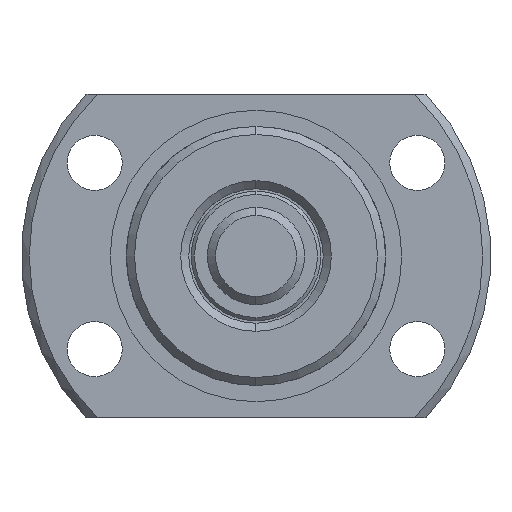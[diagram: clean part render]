
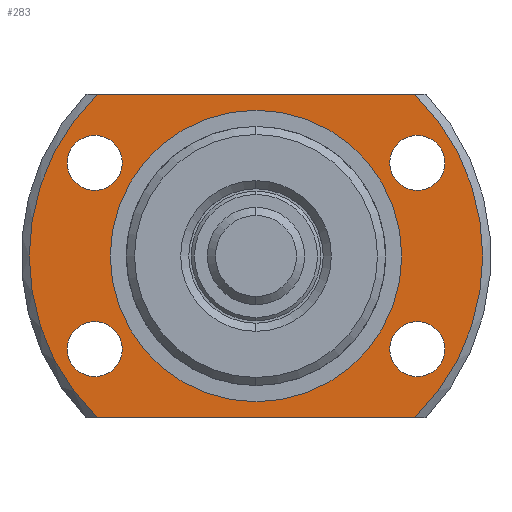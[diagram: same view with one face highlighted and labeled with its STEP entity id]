
A CAD part, left-side view. The second image highlights one B-rep face of the part: STEP entity #283.
In plain terms, the highlighted planar face has unit normal (-1, 0, 0).
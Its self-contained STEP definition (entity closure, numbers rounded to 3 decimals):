
#32 = DIRECTION ( 'NONE',  ( 0., 0., -1. ) ) ;
#33 = DIRECTION ( 'NONE',  ( 1., 0., 0. ) ) ;
#44 = CARTESIAN_POINT ( 'NONE',  ( -5., 0., 0. ) ) ;
#135 = DIRECTION ( 'NONE',  ( 0., 0., 1. ) ) ;
#136 = DIRECTION ( 'NONE',  ( -1., 0., 0. ) ) ;
#138 = CARTESIAN_POINT ( 'NONE',  ( -5., -9.959, -5.75 ) ) ;
#139 = DIRECTION ( 'NONE',  ( 0., 0., 1. ) ) ;
#140 = DIRECTION ( 'NONE',  ( -1., 0., 0. ) ) ;
#141 = CARTESIAN_POINT ( 'NONE',  ( -5., 9.959, -5.75 ) ) ;
#142 = DIRECTION ( 'NONE',  ( 0., 1., 0. ) ) ;
#143 = DIRECTION ( 'NONE',  ( 0., 0., 1. ) ) ;
#144 = DIRECTION ( 'NONE',  ( -1., 0., 0. ) ) ;
#146 = CARTESIAN_POINT ( 'NONE',  ( -5., 9.959, 5.75 ) ) ;
#147 = CARTESIAN_POINT ( 'NONE',  ( -5., 14., 10. ) ) ;
#149 = DIRECTION ( 'NONE',  ( 0., 0., -1. ) ) ;
#150 = DIRECTION ( 'NONE',  ( 1., 0., 0. ) ) ;
#151 = CARTESIAN_POINT ( 'NONE',  ( -5., 0., 0. ) ) ;
#152 = DIRECTION ( 'NONE',  ( 0., -1., 0. ) ) ;
#153 = CARTESIAN_POINT ( 'NONE',  ( -5., 14., -10. ) ) ;
#154 = DIRECTION ( 'NONE',  ( 0., 0., 1. ) ) ;
#155 = DIRECTION ( 'NONE',  ( -1., 0., 0. ) ) ;
#156 = CARTESIAN_POINT ( 'NONE',  ( -5., -9.959, 5.75 ) ) ;
#165 = DIRECTION ( 'NONE',  ( 0., 0., -1. ) ) ;
#166 = DIRECTION ( 'NONE',  ( 1., 0., 0. ) ) ;
#167 = CARTESIAN_POINT ( 'NONE',  ( -5., 0., 0. ) ) ;
#283 = ADVANCED_FACE ( 'NONE', ( #1998, #1999, #2011, #2009, #1996, #2000 ), #3591, .T. ) ;
#608 = AXIS2_PLACEMENT_3D ( 'NONE', #3593, #3589, #3594 ) ;
#686 = CARTESIAN_POINT ( 'NONE',  ( -5., -9.959, -4.05 ) ) ;
#687 = CARTESIAN_POINT ( 'NONE',  ( -5., -9.959, 4.05 ) ) ;
#689 = CARTESIAN_POINT ( 'NONE',  ( -5., -9.959, 7.45 ) ) ;
#698 = CARTESIAN_POINT ( 'NONE',  ( -5., 9.959, 4.05 ) ) ;
#702 = CARTESIAN_POINT ( 'NONE',  ( -5., 9.959, 7.45 ) ) ;
#706 = CARTESIAN_POINT ( 'NONE',  ( -5., 9.959, -7.45 ) ) ;
#713 = CARTESIAN_POINT ( 'NONE',  ( -5., 9.959, -4.05 ) ) ;
#716 = CARTESIAN_POINT ( 'NONE',  ( -5., -9.959, -7.45 ) ) ;
#719 = CARTESIAN_POINT ( 'NONE',  ( -5., 0., 9. ) ) ;
#721 = CARTESIAN_POINT ( 'NONE',  ( -5., 0., -9. ) ) ;
#882 = CIRCLE ( 'NONE', #1156, 1.7 ) ;
#883 = VECTOR ( 'NONE', #142, 1000. ) ;
#884 = CIRCLE ( 'NONE', #1155, 1.7 ) ;
#885 = VECTOR ( 'NONE', #152, 1000. ) ;
#887 = LINE ( 'NONE', #153, #885 ) ;
#888 = LINE ( 'NONE', #147, #883 ) ;
#889 = CIRCLE ( 'NONE', #1154, 1.7 ) ;
#890 = CIRCLE ( 'NONE', #1152, 1.7 ) ;
#891 = CIRCLE ( 'NONE', #1153, 9. ) ;
#893 = CIRCLE ( 'NONE', #1150, 14. ) ;
#896 = CIRCLE ( 'NONE', #1151, 14. ) ;
#1112 = AXIS2_PLACEMENT_3D ( 'NONE', #2714, #2713, #2711 ) ;
#1114 = AXIS2_PLACEMENT_3D ( 'NONE', #2699, #2698, #2697 ) ;
#1116 = AXIS2_PLACEMENT_3D ( 'NONE', #2682, #2681, #2679 ) ;
#1118 = AXIS2_PLACEMENT_3D ( 'NONE', #3078, #3084, #2687 ) ;
#1120 = AXIS2_PLACEMENT_3D ( 'NONE', #2225, #2221, #2220 ) ;
#1150 = AXIS2_PLACEMENT_3D ( 'NONE', #44, #33, #32 ) ;
#1151 = AXIS2_PLACEMENT_3D ( 'NONE', #167, #166, #165 ) ;
#1152 = AXIS2_PLACEMENT_3D ( 'NONE', #156, #155, #154 ) ;
#1153 = AXIS2_PLACEMENT_3D ( 'NONE', #151, #150, #149 ) ;
#1154 = AXIS2_PLACEMENT_3D ( 'NONE', #146, #144, #143 ) ;
#1155 = AXIS2_PLACEMENT_3D ( 'NONE', #141, #140, #139 ) ;
#1156 = AXIS2_PLACEMENT_3D ( 'NONE', #138, #136, #135 ) ;
#1261 = CARTESIAN_POINT ( 'NONE',  ( -5., -9.798, -10. ) ) ;
#1265 = CARTESIAN_POINT ( 'NONE',  ( -5., 9.798, -10. ) ) ;
#1270 = CARTESIAN_POINT ( 'NONE',  ( -5., 9.798, 10. ) ) ;
#1271 = CARTESIAN_POINT ( 'NONE',  ( -5., -9.798, 10. ) ) ;
#1443 = ORIENTED_EDGE ( 'NONE', *, *, #3650, .F. ) ;
#1444 = ORIENTED_EDGE ( 'NONE', *, *, #3739, .F. ) ;
#1446 = ORIENTED_EDGE ( 'NONE', *, *, #3741, .F. ) ;
#1447 = ORIENTED_EDGE ( 'NONE', *, *, #3742, .T. ) ;
#1448 = ORIENTED_EDGE ( 'NONE', *, *, #3734, .F. ) ;
#1449 = ORIENTED_EDGE ( 'NONE', *, *, #3743, .T. ) ;
#1450 = ORIENTED_EDGE ( 'NONE', *, *, #3736, .F. ) ;
#1451 = ORIENTED_EDGE ( 'NONE', *, *, #3658, .F. ) ;
#1525 = CIRCLE ( 'NONE', #1112, 1.7 ) ;
#1852 = CIRCLE ( 'NONE', #1116, 1.7 ) ;
#1996 = FACE_BOUND ( 'NONE', #3776, .T. ) ;
#1998 = FACE_BOUND ( 'NONE', #3772, .T. ) ;
#1999 = FACE_BOUND ( 'NONE', #3789, .T. ) ;
#2000 = FACE_BOUND ( 'NONE', #3780, .T. ) ;
#2009 = FACE_OUTER_BOUND ( 'NONE', #3778, .T. ) ;
#2011 = FACE_BOUND ( 'NONE', #3775, .T. ) ;
#2220 = DIRECTION ( 'NONE',  ( 0., 0., -1. ) ) ;
#2221 = DIRECTION ( 'NONE',  ( 1., 0., 0. ) ) ;
#2225 = CARTESIAN_POINT ( 'NONE',  ( -5., 0., 0. ) ) ;
#2277 = CIRCLE ( 'NONE', #1120, 9. ) ;
#2278 = CIRCLE ( 'NONE', #1118, 1.7 ) ;
#2679 = DIRECTION ( 'NONE',  ( 0., 0., 1. ) ) ;
#2681 = DIRECTION ( 'NONE',  ( -1., 0., 0. ) ) ;
#2682 = CARTESIAN_POINT ( 'NONE',  ( -5., 9.959, 5.75 ) ) ;
#2687 = DIRECTION ( 'NONE',  ( 0., 0., 1. ) ) ;
#2697 = DIRECTION ( 'NONE',  ( 0., 0., 1. ) ) ;
#2698 = DIRECTION ( 'NONE',  ( -1., 0., 0. ) ) ;
#2699 = CARTESIAN_POINT ( 'NONE',  ( -5., -9.959, 5.75 ) ) ;
#2711 = DIRECTION ( 'NONE',  ( 0., 0., 1. ) ) ;
#2713 = DIRECTION ( 'NONE',  ( -1., 0., 0. ) ) ;
#2714 = CARTESIAN_POINT ( 'NONE',  ( -5., -9.959, -5.75 ) ) ;
#3078 = CARTESIAN_POINT ( 'NONE',  ( -5., 9.959, -5.75 ) ) ;
#3084 = DIRECTION ( 'NONE',  ( -1., 0., 0. ) ) ;
#3582 = CIRCLE ( 'NONE', #1114, 1.7 ) ;
#3589 = DIRECTION ( 'NONE',  ( -1., 0., 0. ) ) ;
#3591 = PLANE ( 'NONE',  #608 ) ;
#3593 = CARTESIAN_POINT ( 'NONE',  ( -5., 14., 0. ) ) ;
#3594 = DIRECTION ( 'NONE',  ( 0., 0., 1. ) ) ;
#3646 = EDGE_CURVE ( 'NONE', #4094, #4069, #1525, .T. ) ;
#3650 = EDGE_CURVE ( 'NONE', #4068, #4067, #3582, .T. ) ;
#3654 = EDGE_CURVE ( 'NONE', #4064, #4063, #1852, .T. ) ;
#3658 = EDGE_CURVE ( 'NONE', #4060, #4059, #2278, .T. ) ;
#3662 = EDGE_CURVE ( 'NONE', #4056, #4055, #2277, .T. ) ;
#3734 = EDGE_CURVE ( 'NONE', #4011, #4003, #893, .T. ) ;
#3736 = EDGE_CURVE ( 'NONE', #4005, #4010, #896, .T. ) ;
#3739 = EDGE_CURVE ( 'NONE', #4067, #4068, #890, .T. ) ;
#3740 = EDGE_CURVE ( 'NONE', #4055, #4056, #891, .T. ) ;
#3741 = EDGE_CURVE ( 'NONE', #4063, #4064, #889, .T. ) ;
#3742 = EDGE_CURVE ( 'NONE', #4005, #4003, #887, .T. ) ;
#3743 = EDGE_CURVE ( 'NONE', #4011, #4010, #888, .T. ) ;
#3744 = EDGE_CURVE ( 'NONE', #4059, #4060, #884, .T. ) ;
#3745 = EDGE_CURVE ( 'NONE', #4069, #4094, #882, .T. ) ;
#3772 = EDGE_LOOP ( 'NONE', ( #1443, #1444 ) ) ;
#3775 = EDGE_LOOP ( 'NONE', ( #3938, #1446 ) ) ;
#3776 = EDGE_LOOP ( 'NONE', ( #1451, #3933 ) ) ;
#3778 = EDGE_LOOP ( 'NONE', ( #1447, #1448, #1449, #1450 ) ) ;
#3780 = EDGE_LOOP ( 'NONE', ( #3932, #3934 ) ) ;
#3789 = EDGE_LOOP ( 'NONE', ( #3936, #3937 ) ) ;
#3932 = ORIENTED_EDGE ( 'NONE', *, *, #3646, .F. ) ;
#3933 = ORIENTED_EDGE ( 'NONE', *, *, #3744, .F. ) ;
#3934 = ORIENTED_EDGE ( 'NONE', *, *, #3745, .F. ) ;
#3936 = ORIENTED_EDGE ( 'NONE', *, *, #3740, .T. ) ;
#3937 = ORIENTED_EDGE ( 'NONE', *, *, #3662, .T. ) ;
#3938 = ORIENTED_EDGE ( 'NONE', *, *, #3654, .F. ) ;
#4003 = VERTEX_POINT ( 'NONE', #1261 ) ;
#4005 = VERTEX_POINT ( 'NONE', #1265 ) ;
#4010 = VERTEX_POINT ( 'NONE', #1270 ) ;
#4011 = VERTEX_POINT ( 'NONE', #1271 ) ;
#4055 = VERTEX_POINT ( 'NONE', #721 ) ;
#4056 = VERTEX_POINT ( 'NONE', #719 ) ;
#4059 = VERTEX_POINT ( 'NONE', #713 ) ;
#4060 = VERTEX_POINT ( 'NONE', #706 ) ;
#4063 = VERTEX_POINT ( 'NONE', #702 ) ;
#4064 = VERTEX_POINT ( 'NONE', #698 ) ;
#4067 = VERTEX_POINT ( 'NONE', #689 ) ;
#4068 = VERTEX_POINT ( 'NONE', #687 ) ;
#4069 = VERTEX_POINT ( 'NONE', #686 ) ;
#4094 = VERTEX_POINT ( 'NONE', #716 ) ;
